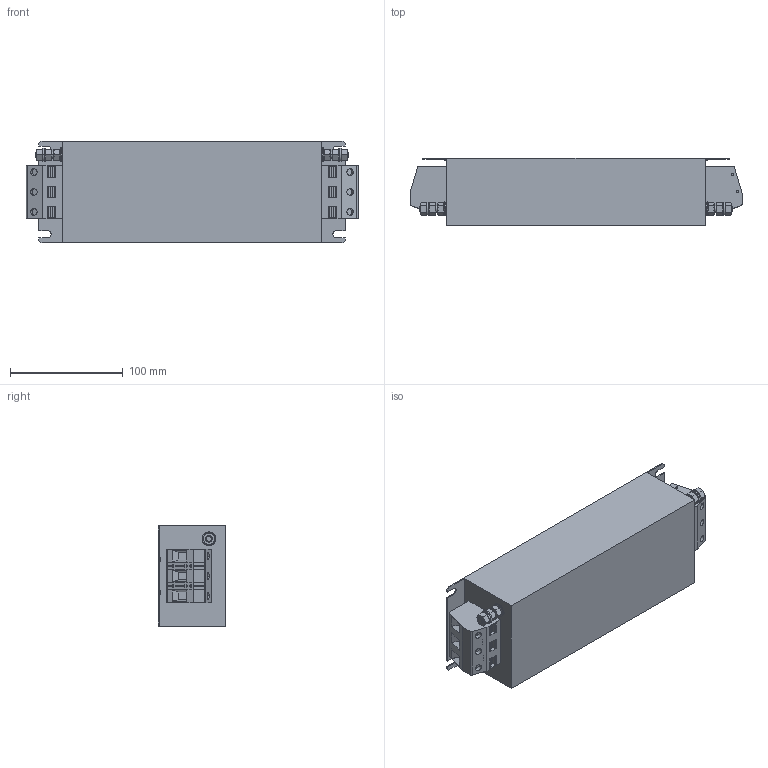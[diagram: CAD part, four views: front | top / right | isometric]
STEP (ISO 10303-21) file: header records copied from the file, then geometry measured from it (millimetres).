
FILE_DESCRIPTION((''),'2;1');
FILE_NAME('PRT0001','2021-04-26T',('ED7336'),(''),'CREO PARAMETRIC BY PTC INC, 2018220','CREO PARAMETRIC BY PTC INC, 2018220','');
FILE_SCHEMA(('AUTOMOTIVE_DESIGN { 1 0 10303 214 1 1 1 1 }'));
Products named in the file (1): PRT0001
Bounding box: 294.6 x 60 x 90 mm (x, y, z)
Volume: 1333163.8 mm3; surface area: 131069.7 mm2
Topology: 1 solids, 53 shells, 1828 faces, 4470 edges, 2924 vertices
Faces by surface type: plane 1032, cylinder 688, cone 96, torus 12
Entity records: 67901 total; most frequent: CARTESIAN_POINT 10136, DIRECTION 9522, ORIENTED_EDGE 8940, PRESENTATION_STYLE_ASSIGNMENT 4471, STYLED_ITEM 4471, CURVE_STYLE 4470, EDGE_CURVE 4470, AXIS2_PLACEMENT_3D 3368
